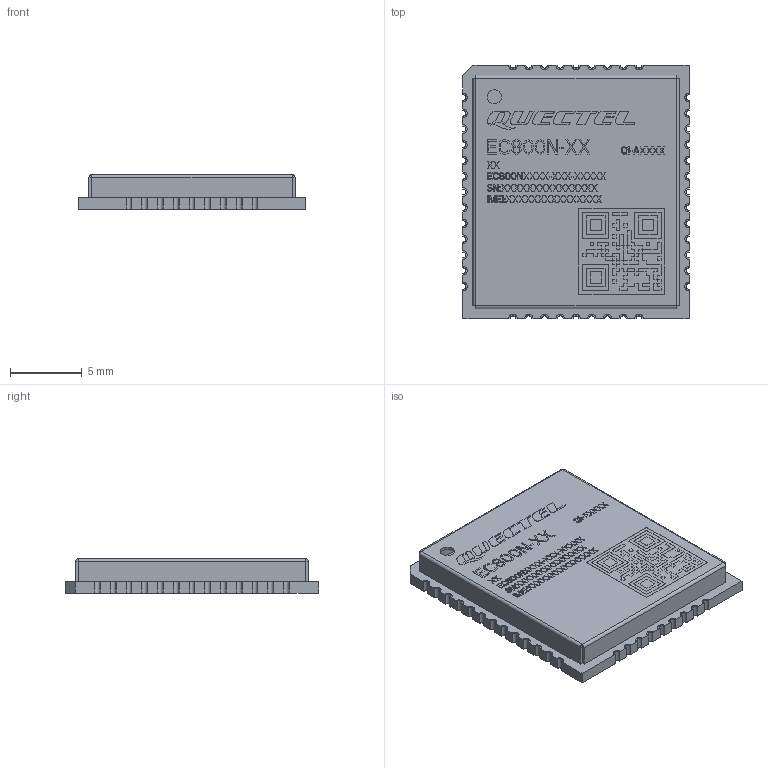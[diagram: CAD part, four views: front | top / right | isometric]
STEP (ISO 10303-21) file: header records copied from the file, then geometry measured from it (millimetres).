
FILE_DESCRIPTION((''),'2;1');
FILE_NAME('EC800N_ASM','2021-09-08T',('cesare.chen'),(''),'CREO PARAMETRIC BY PTC INC, 2014190','CREO PARAMETRIC BY PTC INC, 2014190','');
FILE_SCHEMA(('AUTOMOTIVE_DESIGN { 1 0 10303 214 1 1 1 1 }'));
Products named in the file (3): EC800N_PCB; EC800N_COVER; EC800N_ASM
Assembly tree (2 placements, depth 2):
  EC800N_ASM
    EC800N_PCB
    EC800N_COVER
Bounding box: 15.8 x 17.7 x 2.4 mm (x, y, z)
Volume: 283.2 mm3; surface area: 1266.2 mm2
Topology: 2 solids, 2 shells, 2348 faces, 6424 edges, 4246 vertices
Faces by surface type: plane 2216, cylinder 94, extrusion 38
Entity records: 94672 total; most frequent: CARTESIAN_POINT 13354, ORIENTED_EDGE 12848, DIRECTION 11204, PRESENTATION_STYLE_ASSIGNMENT 6643, STYLED_ITEM 6492, CURVE_STYLE 6424, EDGE_CURVE 6424, VECTOR 6198
